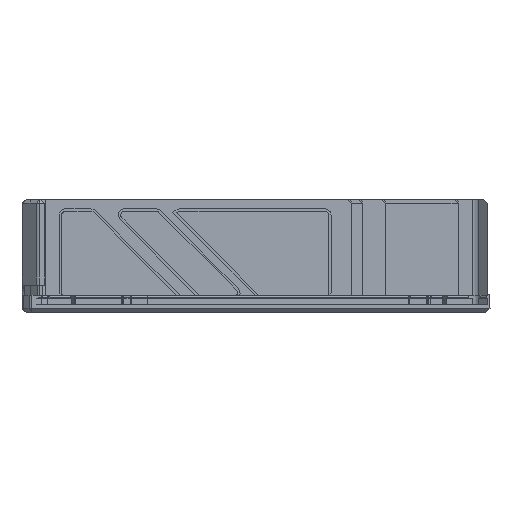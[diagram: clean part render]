
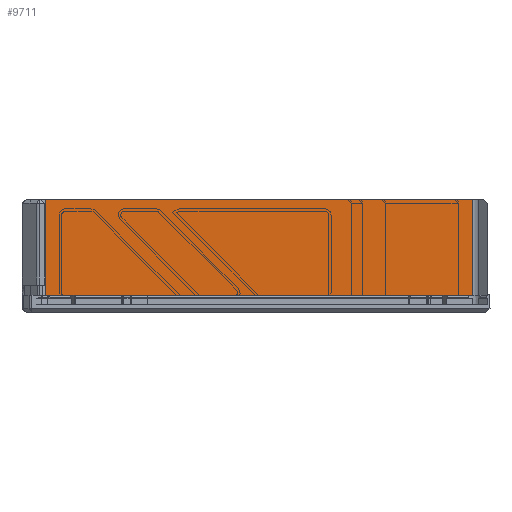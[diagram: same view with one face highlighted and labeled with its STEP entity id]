
A CAD part, left-side view. The second image highlights one B-rep face of the part: STEP entity #9711.
In plain terms, the highlighted free-form (B-spline) face has degree [1, 1] with [2, 2] control points.
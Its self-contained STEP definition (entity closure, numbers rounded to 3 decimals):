
#1341=DIRECTION('',(0.,-1.,0.));
#1342=VECTOR('',#1341,106.509);
#1343=CARTESIAN_POINT('',(293.05,115.774,22.38));
#1344=LINE('',#1343,#1342);
#1552=DIRECTION('',(0.,-1.,0.));
#1553=VECTOR('',#1552,106.509);
#1554=CARTESIAN_POINT('',(293.05,115.774,-1.62));
#1555=LINE('',#1554,#1553);
#1633=DIRECTION('',(0.,0.,1.));
#1634=VECTOR('',#1633,24.);
#1635=CARTESIAN_POINT('',(293.05,115.774,-1.62));
#1636=LINE('',#1635,#1634);
#1637=DIRECTION('',(0.,0.,1.));
#1638=VECTOR('',#1637,24.);
#1639=CARTESIAN_POINT('',(293.05,9.266,-1.62));
#1640=LINE('',#1639,#1638);
#7081=CARTESIAN_POINT('',(293.05,115.774,22.38));
#7082=VERTEX_POINT('',#7081);
#7083=CARTESIAN_POINT('',(293.05,9.266,22.38));
#7084=VERTEX_POINT('',#7083);
#7101=CARTESIAN_POINT('',(293.05,115.774,-1.62));
#7102=VERTEX_POINT('',#7101);
#7103=CARTESIAN_POINT('',(293.05,9.266,-1.62));
#7104=VERTEX_POINT('',#7103);
#9699=CARTESIAN_POINT('',(293.05,117.905,-2.1));
#9700=CARTESIAN_POINT('',(293.05,117.905,22.86));
#9701=CARTESIAN_POINT('',(293.05,7.135,-2.1));
#9702=CARTESIAN_POINT('',(293.05,7.135,22.86));
#9703=B_SPLINE_SURFACE_WITH_KNOTS('',1,1,((#9699,#9700),(#9701,#9702)),
.UNSPECIFIED.,.F.,.F.,.F.,(2,2),(2,2),(-2.13,108.639),(
-0.48,24.48),.UNSPECIFIED.);
#9704=ORIENTED_EDGE('',*,*,#9685,.F.);
#9705=ORIENTED_EDGE('',*,*,#9621,.T.);
#9706=ORIENTED_EDGE('',*,*,#9339,.T.);
#9708=ORIENTED_EDGE('',*,*,#9707,.F.);
#9709=EDGE_LOOP('',(#9704,#9705,#9706,#9708));
#9710=FACE_OUTER_BOUND('',#9709,.F.);
#9711=ADVANCED_FACE('',(#9710),#9703,.T.);
#9339=EDGE_CURVE('',#7082,#7084,#1344,.T.);
#9621=EDGE_CURVE('',#7102,#7082,#1636,.T.);
#9685=EDGE_CURVE('',#7102,#7104,#1555,.T.);
#9707=EDGE_CURVE('',#7104,#7084,#1640,.T.);
